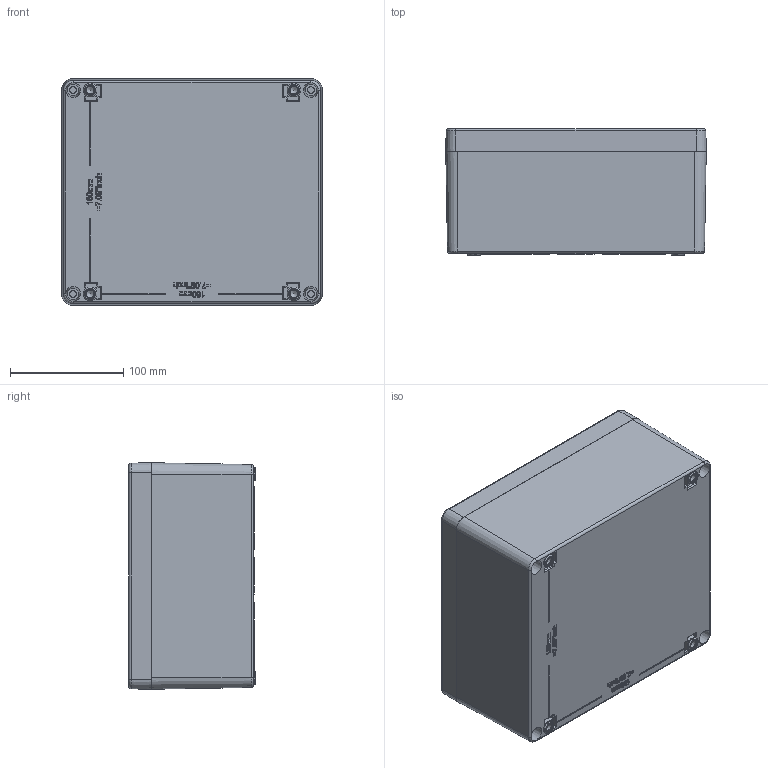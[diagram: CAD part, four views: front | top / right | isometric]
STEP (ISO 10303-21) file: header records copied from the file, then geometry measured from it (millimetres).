
FILE_DESCRIPTION(/* description */ (''),/* implementation_level */ '2;1');
FILE_NAME(/* name */ 'E:\Eng\Customer Service\Drawings\1590Z\STEP\1590Z231\1590Z231.iam.stp',/* time_stamp */ '2015-04-20T08:46:45-04:00',/* author */ ('rboehler'),/* organization */ (''),/* preprocessor_version */ 'ST-DEVELOPER v15.6',/* originating_system */ 'Autodesk Inventor 2015',/* authorisation */ '');
FILE_SCHEMA (('AUTOMOTIVE_DESIGN { 1 0 10303 214 3 1 1 }'));
Length unit declared in the file: millimetre
Products named in the file (6): Z231BOX; Z231Lid; 1590Z231PL; 1590Z231 GASKET; SC564 (screw M6-1X 35mm PN); 1590Z231
Assembly tree (8 placements, depth 2):
  1590Z231
    Z231BOX
    Z231Lid
    1590Z231PL
    1590Z231 GASKET
    SC564 (screw M6-1X 35mm PN)  x4
Bounding box: 230 x 111.5 x 200 mm (x, y, z)
Volume: 1012890.8 mm3; surface area: 482520 mm2
Topology: 8 solids, 8 shells, 1229 faces, 3152 edges, 2027 vertices
Faces by surface type: plane 634, bspline 197, cone 183, cylinder 158, torus 48, sphere 9
Full cylindrical faces by diameter (mm): 3 x4, 4.917 x15, 5 x4, 5.28 x4, 5.5 x8, 5.88 x4, 5.971 x4, 6.5 x4, 6.528 x10, 7 x8, 14 x4
Entity records: 34940 total; most frequent: CARTESIAN_POINT 9185, ORIENTED_EDGE 5370, DIRECTION 4817, EDGE_CURVE 2685, VERTEX_POINT 1802, LINE 1651, VECTOR 1651, AXIS2_PLACEMENT_3D 1583
